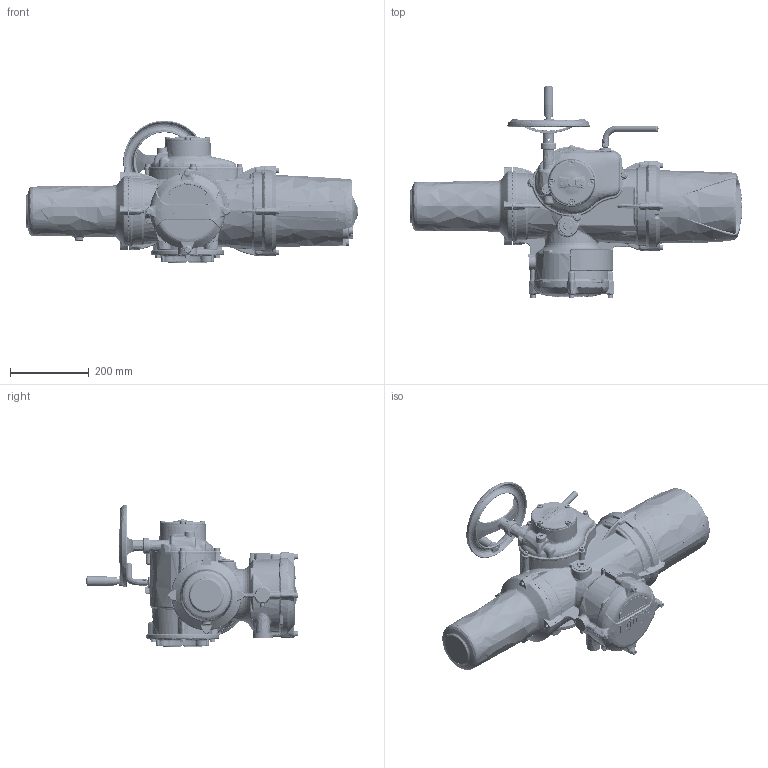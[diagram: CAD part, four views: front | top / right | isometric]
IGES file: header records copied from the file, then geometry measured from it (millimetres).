
Start section: C
Global section: file name: IQ3H-2SP-SHW-B3B4-1.igs; native system: By Siemens PLM Incorporated; preprocessor: XPlus GENERIC/IGES 23.0.57; author: Author; organization: Title; date: 20210329.103714; units: millimetre
Bounding box: 843.5 x 537.85 x 363.3 mm (x, y, z)
Surface area: 1182204.4 mm2 (no closed solid volume)
Topology: 0 solids, 0 shells, 6529 faces, 35648 edges, 35338 vertices
Faces by surface type: bspline 6529
